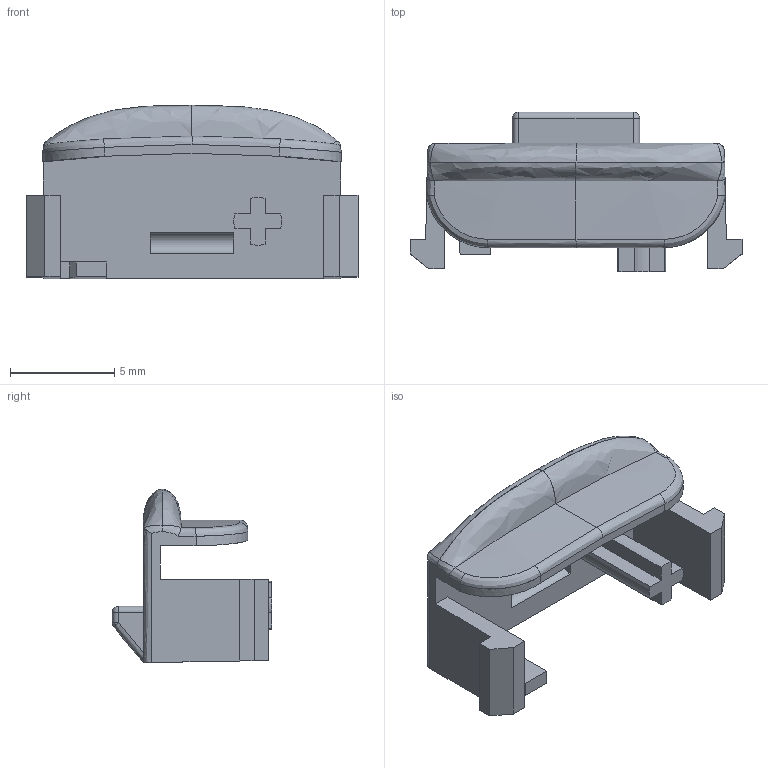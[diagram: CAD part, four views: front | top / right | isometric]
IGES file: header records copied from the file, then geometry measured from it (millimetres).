
Start section:  PTC IGES file: jc_lock_button_prt.igs
Global section: file name: jc_lock_button_prt.igs; native system: Pro/ENGINEER by Parametric Technology Corporation; preprocessor: 2000030; author: ECaille; organization: Unknown; date: 000803.092058; units: millimetre
Bounding box: 15.9 x 7.65 x 8.3 mm (x, y, z)
Surface area: 555.6 mm2 (no closed solid volume)
Topology: 0 solids, 0 shells, 78 faces, 661 edges, 924 vertices
Faces by surface type: bspline 55, revolution 21, extrusion 2
